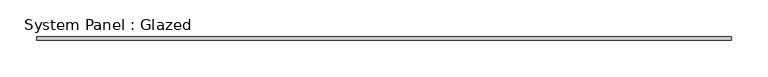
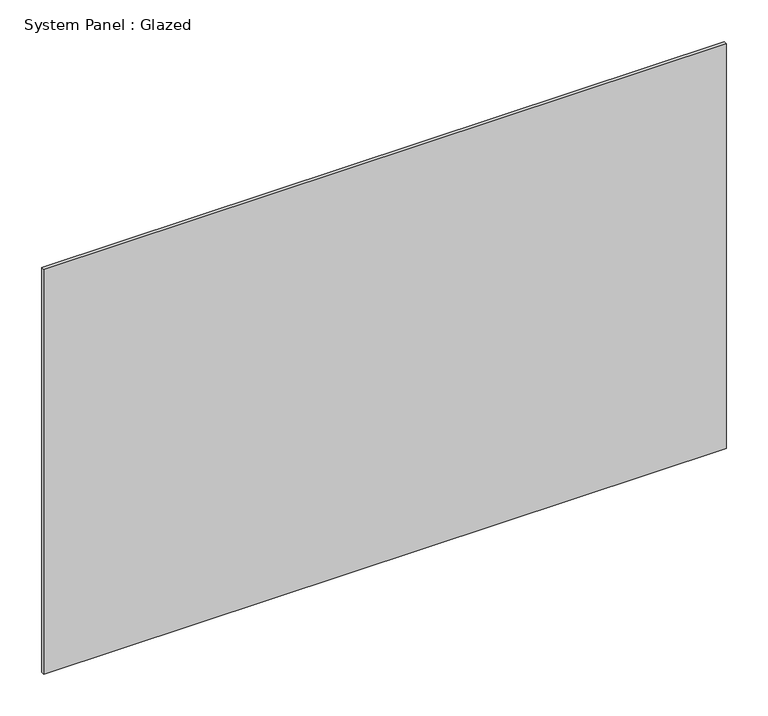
"""IFC4 building model written with IfcOpenShell, lengths in millimetres: plate geometry, System Panel : Glazed."""

from ifc_helpers import new_model, si_unit, origin, origin_with_axes, place, context, project, spatial, polyline, outline, extrude, source, transform, mapped, element, save


def system_panel_glazed_8ed7f146(model_context):
    return source(origin(), model_context, "Body", "SweptSolid", [
        extrude(outline(polyline([(475.0, -2.5), (-475.0, -2.5), (-475.0, 2.5), (475.0, 2.5), (475.0, -2.5)])), origin_with_axes(), (0.0, 0.0, 1.0), 595.9168295),
    ])


if __name__ == "__main__":
    model = new_model("IFC4")
    model_context = context("Model", 3, world=origin())
    ifc_project = project(units=[si_unit("LENGTHUNIT", "METRE", prefix="MILLI")], contexts=[model_context])
    site = spatial("IfcSite", under=ifc_project)
    building = spatial("IfcBuilding", under=site)
    placement = place(None, origin())
    system_panel_glazed_shape = system_panel_glazed_8ed7f146(model_context)
    element("IfcPlate", 1, ObjectType="System Panel : Glazed", at=placement, inside=building, context=model_context, shape_type="MappedRepresentation", body=[
        mapped(system_panel_glazed_shape, transform((0.0, 0.0, 0.0), x_axis=(1.0, 0.0, 0.0), y_axis=(0.0, 1.0, 0.0), z_axis=(0.0, 0.0, 1.0))),
    ])
    save(model, "model.ifc")
